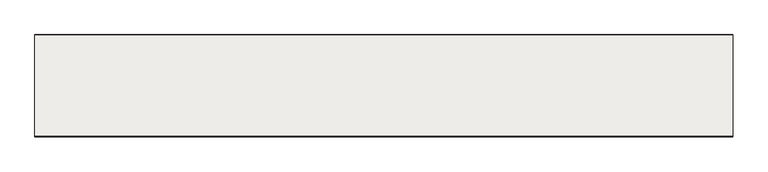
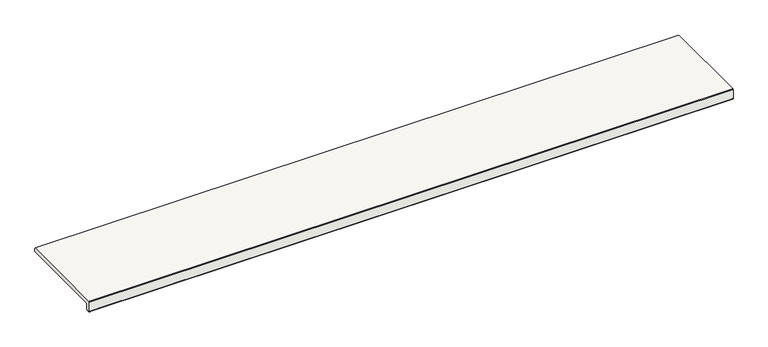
"""IFC4 building model written with IfcOpenShell, lengths in millimetres: slab geometry, ROSA GRES_L62 : Pieza L62_Mistery_Grey_Anti-Slip."""

from ifc_helpers import new_model, si_unit, point, frame, frame_2d, origin, place, context, project, spatial, polyline, circle_curve, trimmed, segment, composite_curve, outline, extrude, source, transform, mapped, element, save


def slab_a5703b33(model_context):
    return source(origin(), model_context, "Body", "SweptSolid", [
        extrude(outline(composite_curve([segment(polyline([(12.1001991, -37.0), (9.4054777, -37.0)]), True, "CONTINUOUS"), segment(trimmed(circle_curve(frame_2d((7.4142134, -37.0)), 1.9912643), [point((9.4054777, -37.0))], [point((5.422949, -37.0))], True, "CARTESIAN"), True, "CONTINUOUS"), segment(polyline([(5.422949, -37.0), (2.5, -37.0)]), True, "CONTINUOUS"), segment(trimmed(circle_curve(frame_2d((2.5, -34.5)), 2.5), [point((2.5, -37.0))], [point((0.0, -34.5))], False, "CARTESIAN"), True, "CONTINUOUS"), segment(polyline([(0.0, -34.5), (0.0, -2.5), (2.5, 0.0), (315.5, 0.0), (317.0, -2.5), (317.0, -12.4648352)]), True, "CONTINUOUS"), segment(trimmed(circle_curve(frame_2d((315.5234432, -12.4648352)), 1.4765568), [point((317.0, -12.4648352))], [point((315.5234432, -13.9413919))], False, "CARTESIAN"), True, "CONTINUOUS"), segment(polyline([(315.5234432, -13.9413919), (16.6422322, -13.9413919)]), True, "CONTINUOUS"), segment(trimmed(circle_curve(frame_2d((16.6422322, -16.5836242)), 2.6422322), [point((16.6422322, -13.9413919))], [point((14.0, -16.5836242))], True, "CARTESIAN"), True, "CONTINUOUS"), segment(polyline([(14.0, -16.5836242), (14.0, -35.1001991)]), True, "CONTINUOUS"), segment(trimmed(circle_curve(frame_2d((12.1001991, -35.1001991)), 1.8998009), [point((14.0, -35.1001991))], [point((12.1001991, -37.0))], False, "CARTESIAN"), True, "CONTINUOUS")], self_intersect=False)), frame((0.0, 0.0, 0.0), z_axis=(1.0, 0.0, 0.0), x_axis=(0.0, 1.0, 0.0)), (0.0, 0.0, 1.0), 2165.0),
    ])


if __name__ == "__main__":
    model = new_model("IFC4")
    model_context = context("Model", 3, world=origin())
    ifc_project = project(units=[si_unit("LENGTHUNIT", "METRE", prefix="MILLI")], contexts=[model_context])
    site = spatial("IfcSite", under=ifc_project)
    building = spatial("IfcBuilding", under=site)
    placement = place(None, origin())
    slab_shape = slab_a5703b33(model_context)
    element("IfcSlab", 1, ObjectType="ROSA GRES_L62 : Pieza L62_Mistery_Grey_Anti-Slip", at=placement, inside=building, context=model_context, shape_type="MappedRepresentation", body=[
        mapped(slab_shape, transform((0.0, 0.0, 0.0), x_axis=(1.0, 0.0, 0.0), y_axis=(0.0, 1.0, 0.0), z_axis=(0.0, 0.0, 1.0))),
    ])
    save(model, "model.ifc")
